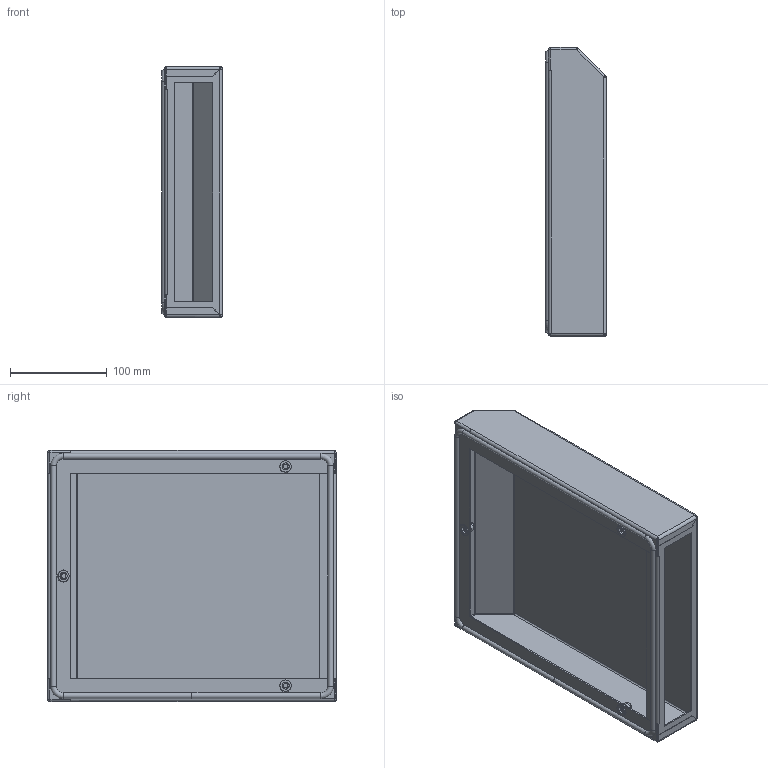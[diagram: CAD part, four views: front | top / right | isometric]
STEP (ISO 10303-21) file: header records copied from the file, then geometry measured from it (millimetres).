
FILE_DESCRIPTION (( 'STEP AP203' ), '1' );
FILE_NAME ('R 13 FA 01.000 ﾑﾁ ﾊ鮻 鈞隆 蓁 粢炅齏.STEP', '2022-04-19T15:59:39', ( '' ), ( '' ), 'SwSTEP 2.0', 'SolidWorks 2018', '' );
FILE_SCHEMA (( 'CONFIG_CONTROL_DESIGN' ));
Length unit declared in the file: millimetre
Products named in the file (4): R 12 FA 00.001 ﾊ鮻 鈞隆 蓁 粢炅齏_R 13 FA 00.001 EPLAN; 逄鋋襡樇鳺 鼨錒膰膼碭嬅R 13 FA S; R 13 FA 01.000 ﾑﾁ ﾊ鮻 鈞隆 蓁 粢炅齏; Çàêëåïêà îö. âûòÿæíàÿ ðåçüáîâàÿ ðèôëåíàÿ Ì6_ƒ ©ª  Œ6 ¢ëâï¦­ ï - S2.0
Assembly tree (5 placements, depth 2):
  R 13 FA 01.000 ﾑﾁ ﾊ鮻 鈞隆 蓁 粢炅齏
    R 12 FA 00.001 ﾊ鮻 鈞隆 蓁 粢炅齏_R 13 FA 00.001 EPLAN
    逄鋋襡樇鳺 鼨錒膰膼碭嬅R 13 FA S
    Çàêëåïêà îö. âûòÿæíàÿ ðåçüáîâàÿ ðèôëåíàÿ Ì6_ƒ ©ª  Œ6 ¢ëâï¦­ ï - S2.0  x3
Bounding box: 62.98 x 299.08 x 260 mm (x, y, z)
Volume: 224075.8 mm3; surface area: 316293.1 mm2
Topology: 5 solids, 5 shells, 200 faces, 448 edges, 264 vertices
Faces by surface type: plane 97, cylinder 65, torus 18, bspline 12, cone 6, sphere 2
Entity records: 5499 total; most frequent: CARTESIAN_POINT 1478, DIRECTION 749, ORIENTED_EDGE 728, EDGE_CURVE 364, AXIS2_PLACEMENT_3D 263, LINE 223, VECTOR 223, VERTEX_POINT 212
